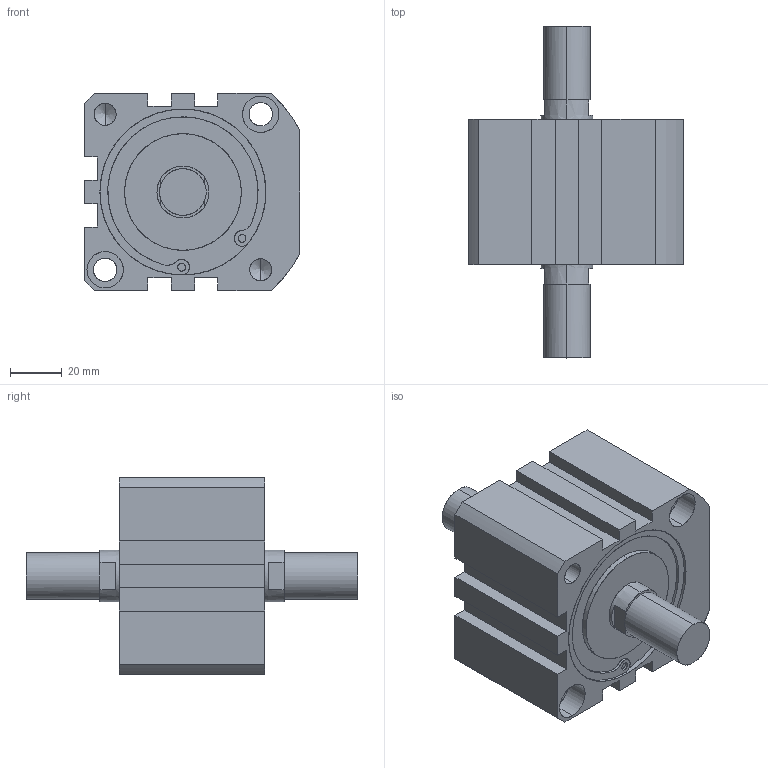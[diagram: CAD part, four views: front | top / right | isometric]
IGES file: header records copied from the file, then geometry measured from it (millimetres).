
Start section: SolidWorks IGES file using analytic representation for surfaces
Global section: file name: C:\Users\Toshiba\Desktop\XC#M7-63-10.IGS; native system: SolidWorks 2014; preprocessor: SolidWorks 2014; author: Toshiba; date: 160523.170422; units: millimetre
Bounding box: 83 x 128 x 76 mm (x, y, z)
Surface area: 44727.2 mm2 (no closed solid volume)
Topology: 0 solids, 0 shells, 149 faces, 2738 edges, 2726 vertices
Faces by surface type: revolution 85, bspline 64
